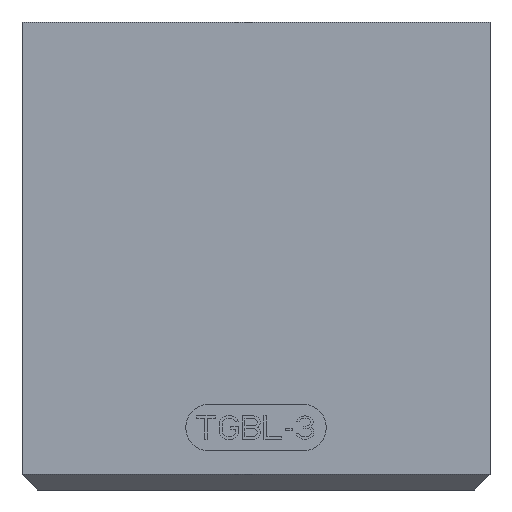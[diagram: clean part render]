
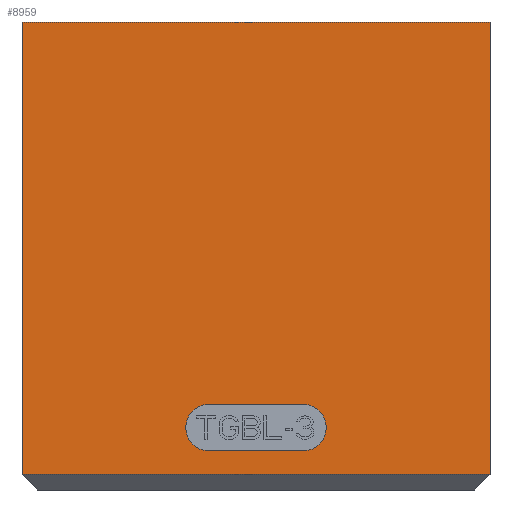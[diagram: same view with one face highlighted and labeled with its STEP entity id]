
A CAD part, front view. The second image highlights one B-rep face of the part: STEP entity #8959.
In plain terms, the highlighted planar face has unit normal (0, -1, 0).
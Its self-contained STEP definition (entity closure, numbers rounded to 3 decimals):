
#1174=DIRECTION('',(-1.,0.,0.));
#1175=VECTOR('',#1174,30.);
#1176=CARTESIAN_POINT('',(22.5,-6.,4.));
#1177=LINE('',#1176,#1175);
#1328=DIRECTION('',(0.,0.,-1.));
#1329=VECTOR('',#1328,29.);
#1330=CARTESIAN_POINT('',(-7.5,-6.,4.));
#1331=LINE('',#1330,#1329);
#1356=DIRECTION('',(1.,0.,0.));
#1357=VECTOR('',#1356,30.);
#1358=CARTESIAN_POINT('',(-7.5,-6.,-25.));
#1359=LINE('',#1358,#1357);
#1363=DIRECTION('',(0.,0.,-1.));
#1364=VECTOR('',#1363,29.);
#1365=CARTESIAN_POINT('',(22.5,-6.,4.));
#1366=LINE('',#1365,#1364);
#1370=CARTESIAN_POINT('',(4.5,-6.,-22.));
#1371=DIRECTION('',(0.,-1.,0.));
#1372=DIRECTION('',(0.,0.,1.));
#1373=AXIS2_PLACEMENT_3D('',#1370,#1371,#1372);
#1378=CARTESIAN_POINT('',(4.5,-6.,-22.));
#1379=DIRECTION('',(0.,-1.,0.));
#1380=DIRECTION('',(-1.,0.,0.));
#1381=AXIS2_PLACEMENT_3D('',#1378,#1379,#1380);
#1386=CARTESIAN_POINT('',(10.5,-6.,-22.));
#1387=DIRECTION('',(0.,-1.,0.));
#1388=DIRECTION('',(0.,0.,-1.));
#1389=AXIS2_PLACEMENT_3D('',#1386,#1387,#1388);
#1394=CARTESIAN_POINT('',(10.5,-6.,-22.));
#1395=DIRECTION('',(0.,-1.,0.));
#1396=DIRECTION('',(1.,0.,0.));
#1397=AXIS2_PLACEMENT_3D('',#1394,#1395,#1396);
#1416=DIRECTION('',(1.,0.,0.));
#1417=VECTOR('',#1416,6.);
#1418=CARTESIAN_POINT('',(4.5,-6.,-20.5));
#1419=LINE('',#1418,#1417);
#1437=DIRECTION('',(-1.,0.,0.));
#1438=VECTOR('',#1437,6.);
#1439=CARTESIAN_POINT('',(10.5,-6.,-23.5));
#1440=LINE('',#1439,#1438);
#5509=CARTESIAN_POINT('',(22.5,-6.,4.));
#5510=VERTEX_POINT('',#5509);
#5511=CARTESIAN_POINT('',(-7.5,-6.,4.));
#5512=VERTEX_POINT('',#5511);
#5517=CARTESIAN_POINT('',(22.5,-6.,-25.));
#5519=VERTEX_POINT('',#5517);
#5543=CARTESIAN_POINT('',(-7.5,-6.,-25.));
#5544=VERTEX_POINT('',#5543);
#5545=CARTESIAN_POINT('',(4.5,-6.,-20.5));
#5546=CARTESIAN_POINT('',(3.,-6.,-22.));
#5547=VERTEX_POINT('',#5545);
#5548=VERTEX_POINT('',#5546);
#5549=CARTESIAN_POINT('',(4.5,-6.,-23.5));
#5550=VERTEX_POINT('',#5549);
#5551=CARTESIAN_POINT('',(10.5,-6.,-23.5));
#5552=VERTEX_POINT('',#5551);
#5553=CARTESIAN_POINT('',(12.,-6.,-22.));
#5554=VERTEX_POINT('',#5553);
#5555=CARTESIAN_POINT('',(10.5,-6.,-20.5));
#5556=VERTEX_POINT('',#5555);
#8934=CARTESIAN_POINT('',(-7.5,-6.,-26.));
#8935=DIRECTION('',(0.,-1.,0.));
#8936=DIRECTION('',(1.,0.,0.));
#8937=AXIS2_PLACEMENT_3D('',#8934,#8935,#8936);
#8938=PLANE('',#8937);
#8939=ORIENTED_EDGE('',*,*,#8928,.F.);
#8940=ORIENTED_EDGE('',*,*,#8903,.F.);
#8941=ORIENTED_EDGE('',*,*,#8792,.F.);
#8942=ORIENTED_EDGE('',*,*,#8811,.T.);
#8943=EDGE_LOOP('',(#8939,#8940,#8941,#8942));
#8944=FACE_OUTER_BOUND('',#8943,.F.);
#8946=ORIENTED_EDGE('',*,*,#8945,.T.);
#8948=ORIENTED_EDGE('',*,*,#8947,.T.);
#8950=ORIENTED_EDGE('',*,*,#8949,.F.);
#8952=ORIENTED_EDGE('',*,*,#8951,.T.);
#8954=ORIENTED_EDGE('',*,*,#8953,.T.);
#8956=ORIENTED_EDGE('',*,*,#8955,.F.);
#8957=EDGE_LOOP('',(#8946,#8948,#8950,#8952,#8954,#8956));
#8958=FACE_BOUND('',#8957,.F.);
#1374=CIRCLE('',#1373,1.5);
#1382=CIRCLE('',#1381,1.5);
#1390=CIRCLE('',#1389,1.5);
#1398=CIRCLE('',#1397,1.5);
#8792=EDGE_CURVE('',#5510,#5512,#1177,.T.);
#8811=EDGE_CURVE('',#5510,#5519,#1366,.T.);
#8903=EDGE_CURVE('',#5512,#5544,#1331,.T.);
#8928=EDGE_CURVE('',#5544,#5519,#1359,.T.);
#8945=EDGE_CURVE('',#5547,#5548,#1374,.T.);
#8947=EDGE_CURVE('',#5548,#5550,#1382,.T.);
#8949=EDGE_CURVE('',#5552,#5550,#1440,.T.);
#8951=EDGE_CURVE('',#5552,#5554,#1390,.T.);
#8953=EDGE_CURVE('',#5554,#5556,#1398,.T.);
#8955=EDGE_CURVE('',#5547,#5556,#1419,.T.);
#8959=ADVANCED_FACE('',(#8944,#8958),#8938,.T.);
